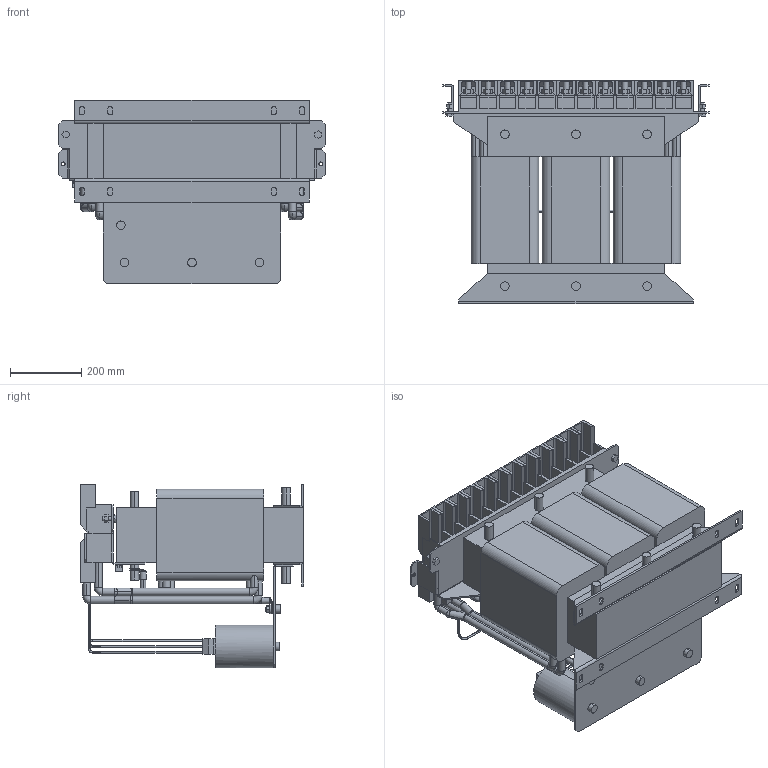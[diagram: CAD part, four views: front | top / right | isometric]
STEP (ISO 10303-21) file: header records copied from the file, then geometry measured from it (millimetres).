
FILE_DESCRIPTION (( 'STEP AP214' ), '1' );
FILE_NAME ('Kundenmodell 30Z1G04-1000^10072182_0001.STEP', '2022-11-21T12:10:00', ( '' ), ( '' ), 'SwSTEP 2.0', 'SolidWorks 2022', '' );
FILE_SCHEMA (( 'AUTOMOTIVE_DESIGN' ));
Length unit declared in the file: centimetre
Products named in the file (1): Kundenmodell 30Z1G04-1000^10072182_0001
Bounding box: 750 x 629.52 x 517.55 mm (x, y, z)
Volume: 82234705.4 mm3; surface area: 3767075.5 mm2
Topology: 1 solids, 1 shells, 1514 faces, 4155 edges, 2690 vertices
Faces by surface type: plane 900, cylinder 444, torus 154, bspline 16
Full cylindrical faces by diameter (mm): 21.5 x3
Entity records: 50183 total; most frequent: CARTESIAN_POINT 10771, ORIENTED_EDGE 8316, DIRECTION 8232, EDGE_CURVE 4158, LINE 2830, VECTOR 2830, AXIS2_PLACEMENT_3D 2701, VERTEX_POINT 2693
